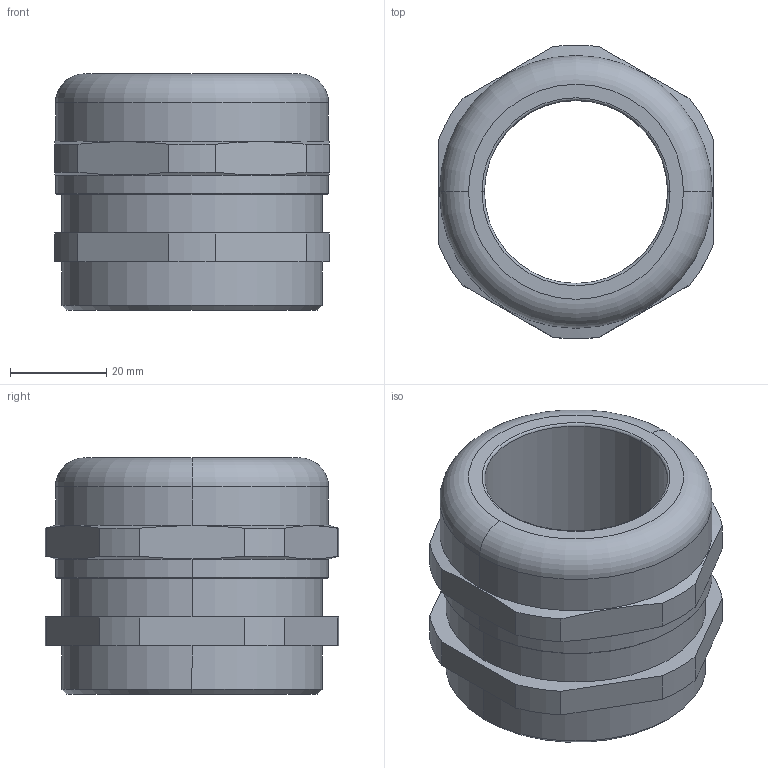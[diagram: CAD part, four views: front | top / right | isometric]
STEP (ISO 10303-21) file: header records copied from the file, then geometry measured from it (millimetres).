
FILE_DESCRIPTION (( 'STEP AP203' ), '1' );
FILE_NAME ('50.042-EMV.STEP', '2006-10-04T08:57:21', ( ' ' ), ( '' ), 'SwSTEP 2.0', 'SolidWorks 2005278', '' );
FILE_SCHEMA (( 'CONFIG_CONTROL_DESIGN' ));
Length unit declared in the file: millimetre
Products named in the file (1): 50.042-EMV
Bounding box: 57 x 60.91 x 49 mm (x, y, z)
Volume: 65143.5 mm3; surface area: 17969 mm2
Topology: 1 solids, 1 shells, 88 faces, 228 edges, 148 vertices
Faces by surface type: plane 54, cylinder 22, cone 8, torus 4
Entity records: 2777 total; most frequent: CARTESIAN_POINT 521, ORIENTED_EDGE 456, DIRECTION 446, EDGE_CURVE 228, VECTOR 156, LINE 156, VERTEX_POINT 148, AXIS2_PLACEMENT_3D 145
